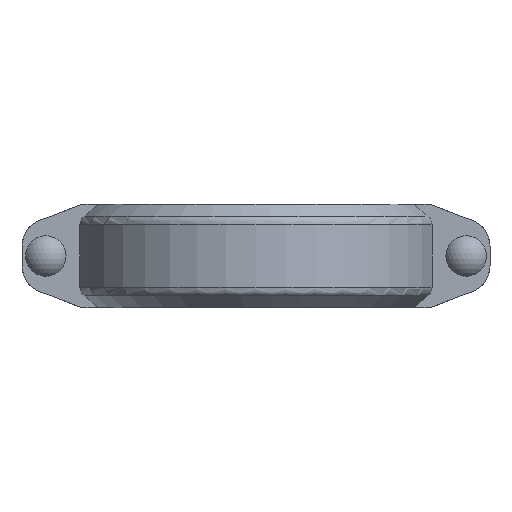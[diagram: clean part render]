
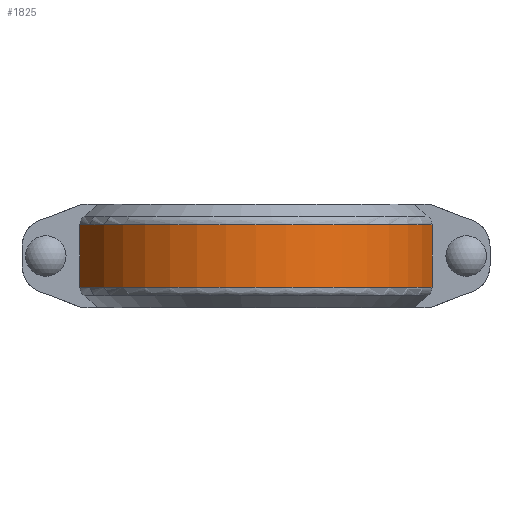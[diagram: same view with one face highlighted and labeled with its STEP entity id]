
A CAD part, front view. The second image highlights one B-rep face of the part: STEP entity #1825.
In plain terms, the highlighted cylindrical face has radius 100.076 mm (diameter 200.152 mm), a partial arc.
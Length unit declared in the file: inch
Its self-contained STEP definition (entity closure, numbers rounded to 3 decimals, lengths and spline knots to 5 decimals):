
#219=FACE_OUTER_BOUND('',#326,.T.);
#326=EDGE_LOOP('',(#1577,#1578,#1579,#1580));
#464=LINE('',#3003,#613);
#483=LINE('',#3147,#632);
#613=VECTOR('',#2475,0.3937);
#632=VECTOR('',#2520,0.3937);
#687=CIRCLE('',#2044,3.94);
#690=CIRCLE('',#2049,3.94);
#840=VERTEX_POINT('',#2989);
#841=VERTEX_POINT('',#3002);
#862=VERTEX_POINT('',#3133);
#863=VERTEX_POINT('',#3146);
#1069=EDGE_CURVE('',#841,#840,#464,.T.);
#1101=EDGE_CURVE('',#863,#862,#483,.T.);
#1108=EDGE_CURVE('',#863,#840,#687,.T.);
#1111=EDGE_CURVE('',#862,#841,#690,.T.);
#1577=ORIENTED_EDGE('',*,*,#1101,.T.);
#1578=ORIENTED_EDGE('',*,*,#1111,.T.);
#1579=ORIENTED_EDGE('',*,*,#1069,.T.);
#1580=ORIENTED_EDGE('',*,*,#1108,.F.);
#1649=CYLINDRICAL_SURFACE('',#2048,3.94);
#1825=ADVANCED_FACE('',(#219),#1649,.T.);
#2044=AXIS2_PLACEMENT_3D('',#3172,#2534,#2535);
#2048=AXIS2_PLACEMENT_3D('',#3176,#2542,#2543);
#2049=AXIS2_PLACEMENT_3D('',#3177,#2544,#2545);
#2475=DIRECTION('',(0.,0.,-1.));
#2520=DIRECTION('',(0.,0.,1.));
#2534=DIRECTION('center_axis',(0.,0.,-1.));
#2535=DIRECTION('ref_axis',(1.,0.,0.));
#2542=DIRECTION('center_axis',(0.,0.,-1.));
#2543=DIRECTION('ref_axis',(0.,1.,0.));
#2544=DIRECTION('center_axis',(0.,0.,-1.));
#2545=DIRECTION('ref_axis',(1.,0.,0.));
#2989=CARTESIAN_POINT('',(3.81098,1.,-0.67128));
#3002=CARTESIAN_POINT('',(3.81098,1.,0.67128));
#3003=CARTESIAN_POINT('',(3.81098,1.,0.));
#3133=CARTESIAN_POINT('',(-3.81098,1.,0.67128));
#3146=CARTESIAN_POINT('',(-3.81098,1.,-0.67128));
#3147=CARTESIAN_POINT('',(-3.81098,1.,0.));
#3172=CARTESIAN_POINT('Origin',(0.,0.,-0.67128));
#3176=CARTESIAN_POINT('Origin',(0.,0.,0.));
#3177=CARTESIAN_POINT('Origin',(0.,0.,0.67128));
